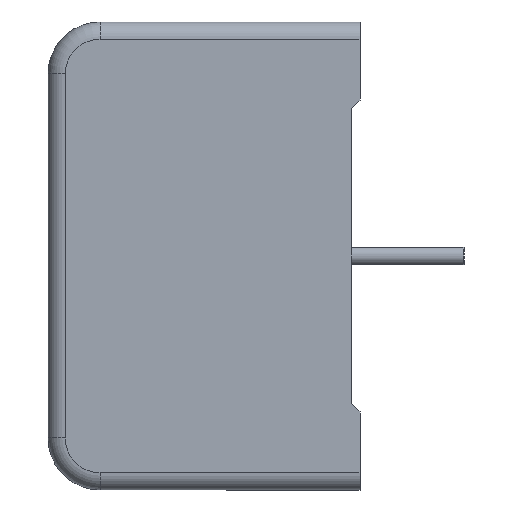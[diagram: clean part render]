
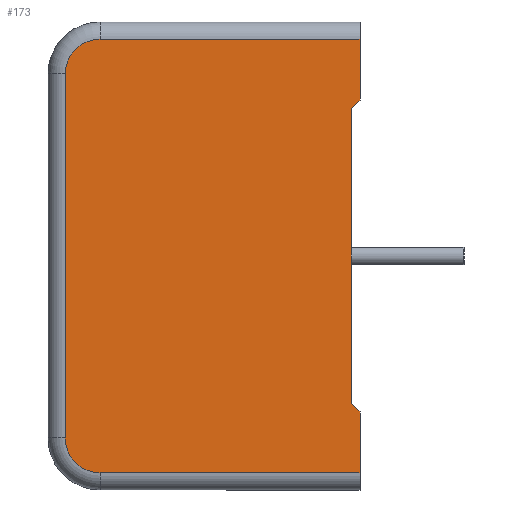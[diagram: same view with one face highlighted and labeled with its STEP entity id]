
A CAD part, left-side view. The second image highlights one B-rep face of the part: STEP entity #173.
In plain terms, the highlighted planar face has unit normal (-1, 0, 0).
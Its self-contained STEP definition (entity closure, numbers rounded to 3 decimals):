
#4 = DIRECTION ( 'NONE',  ( 0., 0., -1. ) ) ;
#18 = VERTEX_POINT ( 'NONE', #2391 ) ;
#19 = DIRECTION ( 'NONE',  ( -1., 0., 0. ) ) ;
#26 = CARTESIAN_POINT ( 'NONE',  ( -21., 15., 10.5 ) ) ;
#108 = VECTOR ( 'NONE', #2878, 1000. ) ;
#120 = EDGE_CURVE ( 'NONE', #719, #959, #971, .T. ) ;
#145 = VECTOR ( 'NONE', #2088, 1000. ) ;
#173 = ADVANCED_FACE ( 'NONE', ( #620 ), #920, .F. ) ;
#235 = VERTEX_POINT ( 'NONE', #3093 ) ;
#311 = EDGE_CURVE ( 'NONE', #3885, #2102, #3126, .T. ) ;
#327 = DIRECTION ( 'NONE',  ( 0., 0., 1. ) ) ;
#333 = VECTOR ( 'NONE', #679, 1000. ) ;
#362 = CARTESIAN_POINT ( 'NONE',  ( -21., 0., -13.5 ) ) ;
#429 = EDGE_CURVE ( 'NONE', #704, #719, #1361, .T. ) ;
#483 = LINE ( 'NONE', #1067, #333 ) ;
#489 = LINE ( 'NONE', #4199, #145 ) ;
#580 = LINE ( 'NONE', #3163, #108 ) ;
#620 = FACE_OUTER_BOUND ( 'NONE', #1961, .T. ) ;
#679 = DIRECTION ( 'NONE',  ( 0., -1., 0. ) ) ;
#685 = EDGE_CURVE ( 'NONE', #235, #704, #3796, .T. ) ;
#704 = VERTEX_POINT ( 'NONE', #2603 ) ;
#719 = VERTEX_POINT ( 'NONE', #2388 ) ;
#783 = CARTESIAN_POINT ( 'NONE',  ( -21., 17., -10.5 ) ) ;
#873 = DIRECTION ( 'NONE',  ( 0., 0., -1. ) ) ;
#877 = DIRECTION ( 'NONE',  ( 1., 0., 0. ) ) ;
#900 = VECTOR ( 'NONE', #1503, 1000. ) ;
#909 = CARTESIAN_POINT ( 'NONE',  ( -21., 18., -13.5 ) ) ;
#920 = PLANE ( 'NONE',  #4035 ) ;
#948 = EDGE_CURVE ( 'NONE', #18, #235, #4334, .T. ) ;
#959 = VERTEX_POINT ( 'NONE', #783 ) ;
#971 = LINE ( 'NONE', #1563, #900 ) ;
#1067 = CARTESIAN_POINT ( 'NONE',  ( -21., 18., -12.5 ) ) ;
#1171 = DIRECTION ( 'NONE',  ( -1., 0., 0. ) ) ;
#1220 = VERTEX_POINT ( 'NONE', #1739 ) ;
#1233 = EDGE_CURVE ( 'NONE', #1666, #18, #489, .T. ) ;
#1345 = VERTEX_POINT ( 'NONE', #3704 ) ;
#1361 = CIRCLE ( 'NONE', #2646, 2. ) ;
#1477 = EDGE_CURVE ( 'NONE', #1220, #1666, #580, .T. ) ;
#1503 = DIRECTION ( 'NONE',  ( 0., 0., -1. ) ) ;
#1563 = CARTESIAN_POINT ( 'NONE',  ( -21., 17., -10.5 ) ) ;
#1666 = VERTEX_POINT ( 'NONE', #2229 ) ;
#1682 = EDGE_CURVE ( 'NONE', #2102, #1220, #1737, .T. ) ;
#1737 = LINE ( 'NONE', #1869, #1766 ) ;
#1739 = CARTESIAN_POINT ( 'NONE',  ( -21., 0.5, -8.5 ) ) ;
#1766 = VECTOR ( 'NONE', #2586, 1000. ) ;
#1869 = CARTESIAN_POINT ( 'NONE',  ( -21., 0.5, -8.5 ) ) ;
#1961 = EDGE_LOOP ( 'NONE', ( #3656, #3700, #3723, #3734, #3768, #3772, #3801, #3808, #3844, #3862 ) ) ;
#2088 = DIRECTION ( 'NONE',  ( 0., -0.707, 0.707 ) ) ;
#2102 = VERTEX_POINT ( 'NONE', #4097 ) ;
#2229 = CARTESIAN_POINT ( 'NONE',  ( -21., 0.5, 8.5 ) ) ;
#2259 = CARTESIAN_POINT ( 'NONE',  ( -21., 0., -13.5 ) ) ;
#2283 = CIRCLE ( 'NONE', #3309, 2. ) ;
#2388 = CARTESIAN_POINT ( 'NONE',  ( -21., 17., 10.5 ) ) ;
#2391 = CARTESIAN_POINT ( 'NONE',  ( -21., 0., 9. ) ) ;
#2586 = DIRECTION ( 'NONE',  ( 0., 0.707, 0.707 ) ) ;
#2591 = DIRECTION ( 'NONE',  ( 0., 0., 1. ) ) ;
#2603 = CARTESIAN_POINT ( 'NONE',  ( -21., 15., 12.5 ) ) ;
#2646 = AXIS2_PLACEMENT_3D ( 'NONE', #26, #19, #4 ) ;
#2878 = DIRECTION ( 'NONE',  ( 0., 0., 1. ) ) ;
#2891 = DIRECTION ( 'NONE',  ( 0., 1., 0. ) ) ;
#3093 = CARTESIAN_POINT ( 'NONE',  ( -21., 0., 12.5 ) ) ;
#3118 = CARTESIAN_POINT ( 'NONE',  ( -21., 18., 12.5 ) ) ;
#3126 = LINE ( 'NONE', #362, #3254 ) ;
#3163 = CARTESIAN_POINT ( 'NONE',  ( -21., 0.5, 8.5 ) ) ;
#3193 = CARTESIAN_POINT ( 'NONE',  ( -21., 15., -10.5 ) ) ;
#3254 = VECTOR ( 'NONE', #327, 1000. ) ;
#3309 = AXIS2_PLACEMENT_3D ( 'NONE', #3193, #1171, #3462 ) ;
#3462 = DIRECTION ( 'NONE',  ( 0., 0., -1. ) ) ;
#3484 = VECTOR ( 'NONE', #2891, 1000. ) ;
#3656 = ORIENTED_EDGE ( 'NONE', *, *, #311, .T. ) ;
#3700 = ORIENTED_EDGE ( 'NONE', *, *, #1682, .T. ) ;
#3704 = CARTESIAN_POINT ( 'NONE',  ( -21., 15., -12.5 ) ) ;
#3723 = ORIENTED_EDGE ( 'NONE', *, *, #1477, .T. ) ;
#3734 = ORIENTED_EDGE ( 'NONE', *, *, #1233, .T. ) ;
#3768 = ORIENTED_EDGE ( 'NONE', *, *, #948, .T. ) ;
#3772 = ORIENTED_EDGE ( 'NONE', *, *, #685, .T. ) ;
#3796 = LINE ( 'NONE', #3118, #3484 ) ;
#3801 = ORIENTED_EDGE ( 'NONE', *, *, #429, .T. ) ;
#3808 = ORIENTED_EDGE ( 'NONE', *, *, #120, .T. ) ;
#3844 = ORIENTED_EDGE ( 'NONE', *, *, #4227, .T. ) ;
#3862 = ORIENTED_EDGE ( 'NONE', *, *, #4047, .T. ) ;
#3885 = VERTEX_POINT ( 'NONE', #4181 ) ;
#4035 = AXIS2_PLACEMENT_3D ( 'NONE', #909, #877, #873 ) ;
#4047 = EDGE_CURVE ( 'NONE', #1345, #3885, #483, .T. ) ;
#4052 = VECTOR ( 'NONE', #2591, 1000. ) ;
#4097 = CARTESIAN_POINT ( 'NONE',  ( -21., 0., -9. ) ) ;
#4181 = CARTESIAN_POINT ( 'NONE',  ( -21., 0., -12.5 ) ) ;
#4199 = CARTESIAN_POINT ( 'NONE',  ( -21., 0., 9. ) ) ;
#4227 = EDGE_CURVE ( 'NONE', #959, #1345, #2283, .T. ) ;
#4334 = LINE ( 'NONE', #2259, #4052 ) ;
